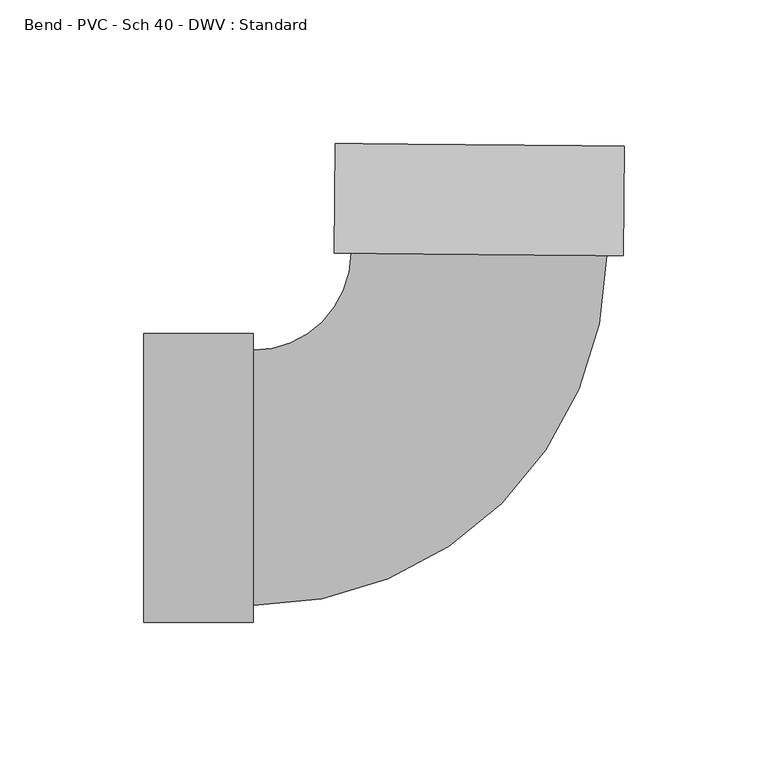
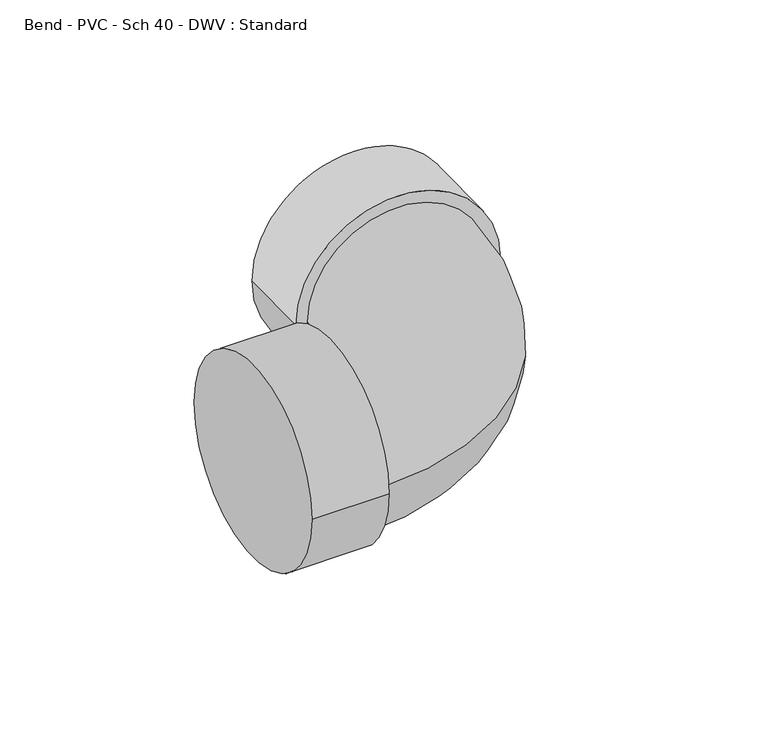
"""IFC4 building model written with IfcOpenShell, lengths in millimetres: pipe fitting geometry, Bend - PVC - Sch 40 - DWV : Standard."""

from ifc_helpers import new_model, si_unit, point, frame, origin, place, context, project, spatial, circle_curve, ellipse_curve, trimmed, source, transform, mapped, element, save
from ifc_brep_helpers import plane_surface, cylinder_surface, revolved_surface, advanced_brep


def bend_pvc_sch_40_dwv_standard_2a70e4cc(model_context):
    return source(origin(), model_context, "Body", "AdvancedBrep", [
        advanced_brep(
        [(-115.9002, -50.2666, 0.0), (-115.9002, 50.2666, 0.0), (-77.8002, -50.2666, 0.0), (-77.8002, 50.2666, 0.0), (-77.8002, -44.45, 0.0), (-77.8002, 44.45, 0.0), (-43.7345164, 78.2046398, 0.0), (45.1617438, 77.3892145, 0.0), (50.9780991, 77.3358624, 0.0), (-49.5508717, 78.257992, 0.0), (51.3275671, 115.4342596, 0.0), (-49.2014037, 116.3563892, 0.0)],
        [
            (0, 1, circle_curve(frame((-115.9002, 0.0, 0.0), z_axis=(-1.0, 0.0, 0.0), x_axis=(0.0, 1.0, 0.0)), 50.2666)),
            (1, 0, circle_curve(frame((-115.9002, 0.0, 0.0), z_axis=(-1.0, 0.0, 0.0), x_axis=(0.0, 1.0, 0.0)), 50.2666)),
            (2, 3, circle_curve(frame((-77.8002, 0.0, 0.0), z_axis=(1.0, 0.0, 0.0), x_axis=(0.0, 1.0, 0.0)), 50.2666)),
            (3, 2, circle_curve(frame((-77.8002, 0.0, 0.0), z_axis=(1.0, 0.0, 0.0), x_axis=(0.0, 1.0, 0.0)), 50.2666)),
            (4, 5, circle_curve(frame((-77.8002, 0.0, 0.0), z_axis=(-1.0, 0.0, 0.0), x_axis=(0.0, 1.0, 0.0)), 44.45)),
            (5, 4, circle_curve(frame((-77.8002, 0.0, 0.0), z_axis=(-1.0, 0.0, 0.0), x_axis=(0.0, 1.0, 0.0)), 44.45)),
            (0, 2),
            (3, 1),
            (6, 5, circle_curve(frame((-77.8002, 78.5171167, 0.0), z_axis=(0.0, 0.0, -1.0), x_axis=(0.0, -1.0, 0.0)), 34.0671167)),
            (4, 7, circle_curve(frame((-77.8002, 78.5171167, 0.0), z_axis=(0.0, 0.0, 1.0), x_axis=(0.0, -1.0, 0.0)), 122.9671167)),
            (7, 6, circle_curve(frame((0.7136137, 77.7969272, 0.0), z_axis=(-0.009172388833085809, -0.9999579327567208, 0.0), x_axis=(-0.9999579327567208, 0.009172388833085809, 0.0)), 44.45)),
            (6, 7, circle_curve(frame((0.7136137, 77.7969272, 0.0), z_axis=(-0.009172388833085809, -0.9999579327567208, 0.0), x_axis=(-0.9999579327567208, 0.009172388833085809, 0.0)), 44.45)),
            (8, 9, circle_curve(frame((0.7136137, 77.7969272, 0.0), z_axis=(-0.009172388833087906, -0.999957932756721, 0.0), x_axis=(-0.999957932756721, 0.009172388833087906, 0.0)), 50.2666)),
            (9, 8, circle_curve(frame((0.7136137, 77.7969272, 0.0), z_axis=(-0.009172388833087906, -0.999957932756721, 0.0), x_axis=(-0.999957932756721, 0.009172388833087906, 0.0)), 50.2666)),
            (10, 11, circle_curve(frame((1.0630817, 115.8953244, 0.0), z_axis=(0.009172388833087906, 0.999957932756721, 0.0), x_axis=(-0.999957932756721, 0.009172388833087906, 0.0)), 50.2666)),
            (11, 10, circle_curve(frame((1.0630817, 115.8953244, 0.0), z_axis=(0.009172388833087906, 0.999957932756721, 0.0), x_axis=(-0.999957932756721, 0.009172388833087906, 0.0)), 50.2666)),
            (8, 10),
            (11, 9),
        ],
        [
            plane_surface(frame((-115.9002, 0.0, 0.0), z_axis=(-1.0, 0.0, 0.0), x_axis=(0.0, 0.0, 1.0))),
            plane_surface(frame((-77.8002, 0.0, 0.0), z_axis=(1.0, 0.0, 0.0), x_axis=(0.0, 0.0, 1.0))),
            cylinder_surface(frame((-115.9002, 0.0, 0.0), z_axis=(-1.0, 0.0, 0.0), x_axis=(0.0, 1.0, 0.0)), 50.2666),
            revolved_surface(trimmed(ellipse_curve(frame((-77.8002, 0.0, 0.0), z_axis=(-1.0, 0.0, 0.0), x_axis=(0.0, 1.0, 0.0)), 44.45, 44.45), [point((-77.8002, -44.45, 0.0))], [point((-77.8002, 44.45, 0.0))], True, "CARTESIAN"), (-77.8002, 78.5171167, 0.0), (0.0, 0.0, 1.0)),
            revolved_surface(trimmed(ellipse_curve(frame((-77.8002, 0.0, 0.0), z_axis=(-1.0, 0.0, 0.0), x_axis=(0.0, 1.0, 0.0)), 44.45, 44.45), [point((-77.8002, 44.45, 0.0))], [point((-77.8002, -44.45, 0.0))], True, "CARTESIAN"), (-77.8002, 78.5171167, 0.0), (0.0, 0.0, 1.0)),
            plane_surface(frame((0.7136137, 77.7969272, 0.0), z_axis=(-0.009172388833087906, -0.999957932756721, 0.0), x_axis=(0.0, 0.0, 1.0))),
            plane_surface(frame((1.0630817, 115.8953244, 0.0), z_axis=(0.009172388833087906, 0.999957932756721, 0.0), x_axis=(0.0, 0.0, 1.0))),
            cylinder_surface(frame((0.7136137, 77.7969272, 0.0), z_axis=(-0.009172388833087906, -0.999957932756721, 0.0), x_axis=(-0.999957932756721, 0.009172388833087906, 0.0)), 50.2666),
        ],
        [
            (0, [[1, 2]]),
            (1, [[3, 4], [5, 6]]),
            (2, [[-1, 7, -4, 8]]),
            (2, [[-2, -8, -3, -7]]),
            (3, [[9, -5, 10, 11]]),
            (4, [[-9, 12, -10, -6]]),
            (5, [[13, 14], [-11, -12]]),
            (6, [[15, 16]]),
            (7, [[-13, 17, -16, 18]]),
            (7, [[-14, -18, -15, -17]]),
        ],
    ),
    ])


if __name__ == "__main__":
    model = new_model("IFC4")
    model_context = context("Model", 3, world=origin())
    ifc_project = project(units=[si_unit("LENGTHUNIT", "METRE", prefix="MILLI")], contexts=[model_context])
    site = spatial("IfcSite", under=ifc_project)
    building = spatial("IfcBuilding", under=site)
    placement = place(None, origin())
    bend_pvc_sch_40_dwv_standard_shape = bend_pvc_sch_40_dwv_standard_2a70e4cc(model_context)
    element("IfcPipeFitting", 1, ObjectType="Bend - PVC - Sch 40 - DWV : Standard", at=placement, inside=building, context=model_context, shape_type="MappedRepresentation", body=[
        mapped(bend_pvc_sch_40_dwv_standard_shape, transform((0.0, 0.0, 0.0), x_axis=(1.0, 0.0, 0.0), y_axis=(0.0, 1.0, 0.0), z_axis=(0.0, 0.0, 1.0))),
    ])
    save(model, "model.ifc")
